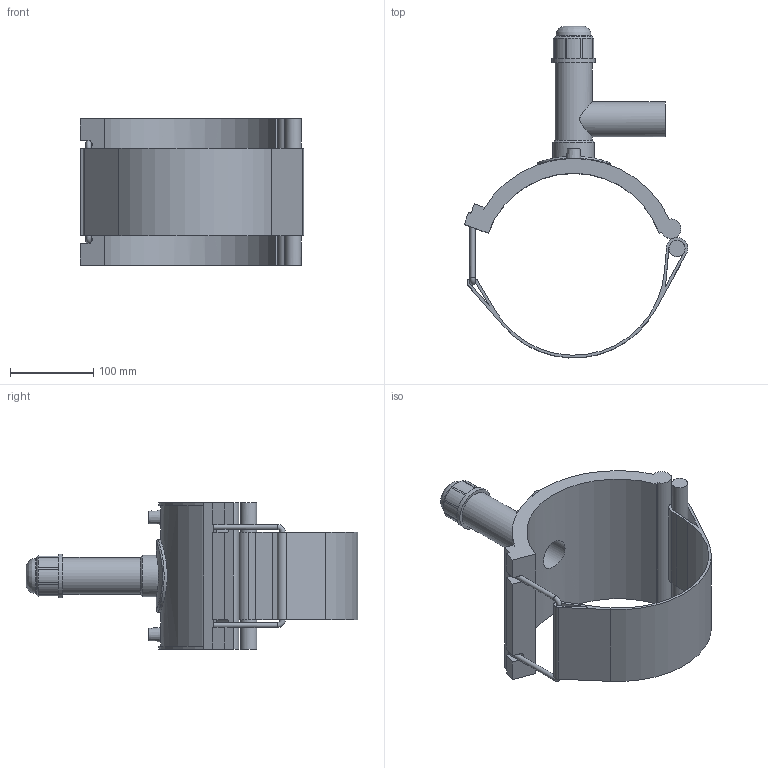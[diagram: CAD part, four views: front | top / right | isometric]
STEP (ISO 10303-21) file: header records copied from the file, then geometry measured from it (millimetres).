
FILE_DESCRIPTION(/* description */ ('PLASSON TAPPING SADDLE 8''''IPS x 1 1/4''''IPS'),/* implementation_level */ '2;1');
FILE_NAME(/* name */ 'C:\Dropbox\KIMPROJECTS-Inventor 2019\99-16-3568-Processing Inch\ASTM ElectroFusion 2021\5963B\5963BB03080013.ipt.stp',/* time_stamp */ '2021-08-30T09:55:47+03:00',/* author */ ('KIM'),/* organization */ (''),/* preprocessor_version */ 'ST-DEVELOPER v17.2',/* originating_system */ 'Autodesk Inventor 2019',/* authorisation */ '');
FILE_SCHEMA (('AUTOMOTIVE_DESIGN { 1 0 10303 214 3 1 1 }'));
Length unit declared in the file: millimetre
Products named in the file (1): 5963BB03080013
Bounding box: 268.63 x 398.85 x 176.02 mm (x, y, z)
Volume: 1328617 mm3; surface area: 311438.1 mm2
Topology: 1 solids, 1 shells, 122 faces, 315 edges, 206 vertices
Faces by surface type: plane 69, cylinder 38, cone 11, bspline 2, torus 2
Full cylindrical faces by diameter (mm): 4 x2, 6.124 x2, 10 x2, 19.347 x1, 33.68 x1, 36.742 x1, 41.99 x1, 42.1 x1, 44.615 x1, 49.864 x1, 52.488 x1, 87.48 x1
Entity records: 4372 total; most frequent: CARTESIAN_POINT 1252, DIRECTION 656, ORIENTED_EDGE 632, EDGE_CURVE 316, AXIS2_PLACEMENT_3D 238, VERTEX_POINT 206, LINE 180, VECTOR 180
